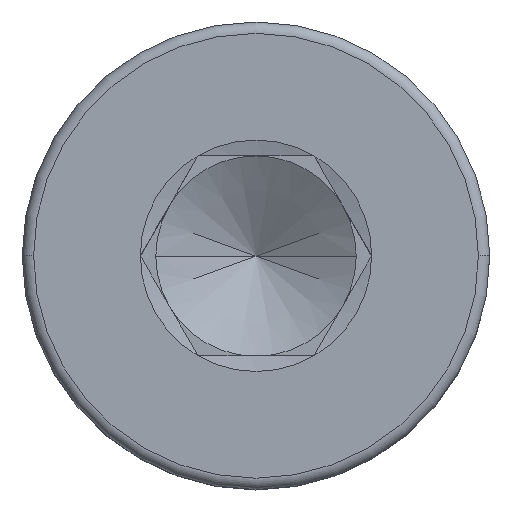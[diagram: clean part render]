
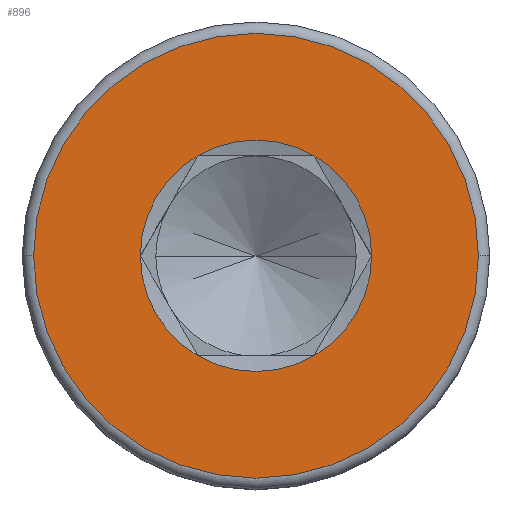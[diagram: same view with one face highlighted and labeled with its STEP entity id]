
A CAD part, top view. The second image highlights one B-rep face of the part: STEP entity #896.
In plain terms, the highlighted planar face has unit normal (0, 0, 1).
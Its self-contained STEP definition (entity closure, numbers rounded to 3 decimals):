
#7 = EDGE_CURVE ( 'NONE', #764, #107, #1321, .T. ) ;
#11 = DIRECTION ( 'NONE',  ( 1., 0., 0. ) ) ;
#45 = EDGE_CURVE ( 'NONE', #232, #143, #186, .T. ) ;
#48 = CIRCLE ( 'NONE', #1472, 1.732 ) ;
#52 = CARTESIAN_POINT ( 'NONE',  ( 0., 0., 4. ) ) ;
#90 = CARTESIAN_POINT ( 'NONE',  ( 0., 0., 4. ) ) ;
#97 = AXIS2_PLACEMENT_3D ( 'NONE', #1061, #607, #1030 ) ;
#98 = CIRCLE ( 'NONE', #727, 3.33 ) ;
#107 = VERTEX_POINT ( 'NONE', #233 ) ;
#143 = VERTEX_POINT ( 'NONE', #1675 ) ;
#160 = AXIS2_PLACEMENT_3D ( 'NONE', #1309, #1452, #1592 ) ;
#163 = DIRECTION ( 'NONE',  ( 1., 0., 0. ) ) ;
#167 = CARTESIAN_POINT ( 'NONE',  ( 1.732, 0., 4. ) ) ;
#169 = ORIENTED_EDGE ( 'NONE', *, *, #426, .F. ) ;
#171 = CARTESIAN_POINT ( 'NONE',  ( 0.866, 1.5, 4. ) ) ;
#186 = CIRCLE ( 'NONE', #1106, 1.732 ) ;
#191 = CIRCLE ( 'NONE', #160, 1.732 ) ;
#199 = EDGE_LOOP ( 'NONE', ( #589, #1077 ) ) ;
#232 = VERTEX_POINT ( 'NONE', #649 ) ;
#233 = CARTESIAN_POINT ( 'NONE',  ( 3.33, 0., 4. ) ) ;
#251 = CARTESIAN_POINT ( 'NONE',  ( -1.732, 0., 4. ) ) ;
#276 = CARTESIAN_POINT ( 'NONE',  ( -3.33, 0., 4. ) ) ;
#281 = EDGE_CURVE ( 'NONE', #625, #1092, #191, .T. ) ;
#426 = EDGE_CURVE ( 'NONE', #1585, #625, #1445, .T. ) ;
#430 = DIRECTION ( 'NONE',  ( 0., 0., 1. ) ) ;
#510 = EDGE_LOOP ( 'NONE', ( #169, #1268, #745, #614, #566, #1129 ) ) ;
#566 = ORIENTED_EDGE ( 'NONE', *, *, #679, .F. ) ;
#589 = ORIENTED_EDGE ( 'NONE', *, *, #1338, .T. ) ;
#607 = DIRECTION ( 'NONE',  ( 0., 0., 1. ) ) ;
#614 = ORIENTED_EDGE ( 'NONE', *, *, #1302, .F. ) ;
#625 = VERTEX_POINT ( 'NONE', #171 ) ;
#632 = FACE_OUTER_BOUND ( 'NONE', #199, .T. ) ;
#649 = CARTESIAN_POINT ( 'NONE',  ( -0.866, -1.5, 4. ) ) ;
#679 = EDGE_CURVE ( 'NONE', #1092, #944, #1176, .T. ) ;
#685 = CARTESIAN_POINT ( 'NONE',  ( -0.866, 1.5, 4. ) ) ;
#727 = AXIS2_PLACEMENT_3D ( 'NONE', #1073, #1093, #11 ) ;
#745 = ORIENTED_EDGE ( 'NONE', *, *, #45, .F. ) ;
#749 = EDGE_CURVE ( 'NONE', #143, #1585, #871, .T. ) ;
#764 = VERTEX_POINT ( 'NONE', #276 ) ;
#871 = CIRCLE ( 'NONE', #1665, 1.732 ) ;
#895 = FACE_BOUND ( 'NONE', #510, .T. ) ;
#896 = ADVANCED_FACE ( 'NONE', ( #632, #895 ), #1738, .T. ) ;
#915 = DIRECTION ( 'NONE',  ( 0., 0., 1. ) ) ;
#944 = VERTEX_POINT ( 'NONE', #251 ) ;
#955 = AXIS2_PLACEMENT_3D ( 'NONE', #1044, #1038, #1604 ) ;
#990 = CARTESIAN_POINT ( 'NONE',  ( 0., 0., 4. ) ) ;
#1017 = CARTESIAN_POINT ( 'NONE',  ( 0., 0., 4. ) ) ;
#1030 = DIRECTION ( 'NONE',  ( 1., 0., 0. ) ) ;
#1038 = DIRECTION ( 'NONE',  ( 0., 0., 1. ) ) ;
#1044 = CARTESIAN_POINT ( 'NONE',  ( 0., 0., 4. ) ) ;
#1061 = CARTESIAN_POINT ( 'NONE',  ( 0., 0., 4. ) ) ;
#1073 = CARTESIAN_POINT ( 'NONE',  ( 0., 0., 4. ) ) ;
#1077 = ORIENTED_EDGE ( 'NONE', *, *, #7, .T. ) ;
#1092 = VERTEX_POINT ( 'NONE', #685 ) ;
#1093 = DIRECTION ( 'NONE',  ( 0., 0., 1. ) ) ;
#1106 = AXIS2_PLACEMENT_3D ( 'NONE', #90, #915, #163 ) ;
#1129 = ORIENTED_EDGE ( 'NONE', *, *, #281, .F. ) ;
#1176 = CIRCLE ( 'NONE', #1446, 1.732 ) ;
#1266 = DIRECTION ( 'NONE',  ( 0., 0., 1. ) ) ;
#1268 = ORIENTED_EDGE ( 'NONE', *, *, #749, .F. ) ;
#1302 = EDGE_CURVE ( 'NONE', #944, #232, #48, .T. ) ;
#1309 = CARTESIAN_POINT ( 'NONE',  ( 0., 0., 4. ) ) ;
#1321 = CIRCLE ( 'NONE', #955, 3.33 ) ;
#1338 = EDGE_CURVE ( 'NONE', #107, #764, #98, .T. ) ;
#1418 = DIRECTION ( 'NONE',  ( 1., 0., 0. ) ) ;
#1445 = CIRCLE ( 'NONE', #1669, 1.732 ) ;
#1446 = AXIS2_PLACEMENT_3D ( 'NONE', #1683, #430, #1418 ) ;
#1450 = DIRECTION ( 'NONE',  ( 1., 0., 0. ) ) ;
#1452 = DIRECTION ( 'NONE',  ( 0., 0., 1. ) ) ;
#1472 = AXIS2_PLACEMENT_3D ( 'NONE', #1017, #1579, #1450 ) ;
#1579 = DIRECTION ( 'NONE',  ( 0., 0., 1. ) ) ;
#1585 = VERTEX_POINT ( 'NONE', #167 ) ;
#1592 = DIRECTION ( 'NONE',  ( 1., 0., 0. ) ) ;
#1604 = DIRECTION ( 'NONE',  ( 1., 0., 0. ) ) ;
#1665 = AXIS2_PLACEMENT_3D ( 'NONE', #990, #1266, #1791 ) ;
#1669 = AXIS2_PLACEMENT_3D ( 'NONE', #52, #1724, #1709 ) ;
#1675 = CARTESIAN_POINT ( 'NONE',  ( 0.866, -1.5, 4. ) ) ;
#1683 = CARTESIAN_POINT ( 'NONE',  ( 0., 0., 4. ) ) ;
#1709 = DIRECTION ( 'NONE',  ( 1., 0., 0. ) ) ;
#1724 = DIRECTION ( 'NONE',  ( 0., 0., 1. ) ) ;
#1738 = PLANE ( 'NONE',  #97 ) ;
#1791 = DIRECTION ( 'NONE',  ( 1., 0., 0. ) ) ;
